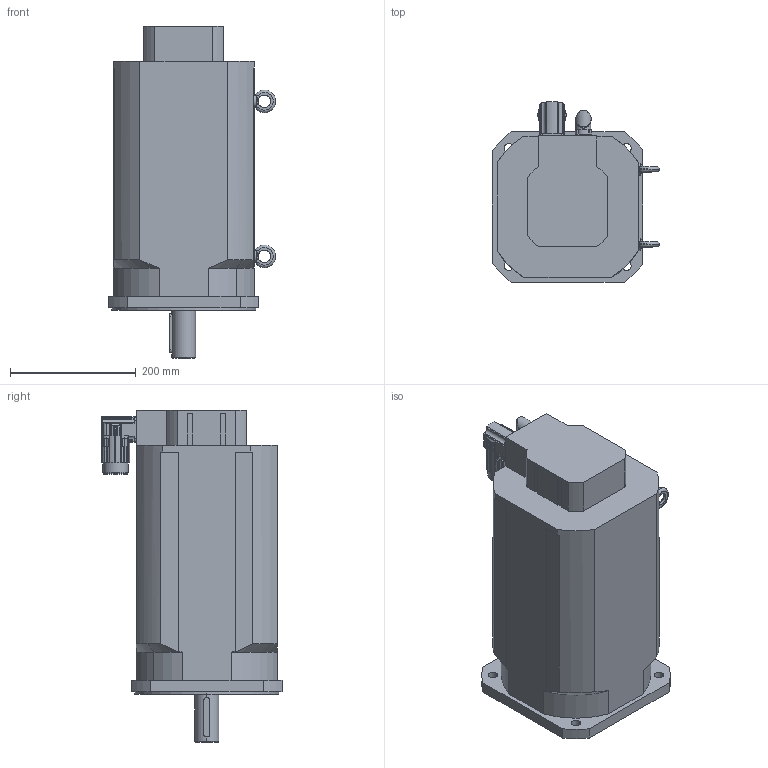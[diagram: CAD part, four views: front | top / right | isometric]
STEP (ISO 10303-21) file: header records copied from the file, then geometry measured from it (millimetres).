
FILE_DESCRIPTION(('STEP AP203'),'2;1');
FILE_NAME('MT8-0680_BX.stp','2006-08-28T20:56:47',(''),(''),'2005.2.102','THINKDESIGN','');
FILE_SCHEMA(('CONFIG_CONTROL_DESIGN'));
Length unit declared in the file: millimetre
Bounding box: 266.5 x 287.18 x 529 mm (x, y, z)
Volume: 19984770.5 mm3; surface area: 521911.2 mm2
Topology: 5 solids, 5 shells, 534 faces, 1442 edges, 929 vertices
Faces by surface type: cylinder 259, plane 194, bspline 81
Full cylindrical faces by diameter (mm): 20 x2, 23 x1, 37.8 x1, 40 x1
Entity records: 19287 total; most frequent: CARTESIAN_POINT 5926, ORIENTED_EDGE 2872, DIRECTION 2774, EDGE_CURVE 1436, AXIS2_PLACEMENT_3D 1055, VERTEX_POINT 929, VECTOR 664, LINE 664
